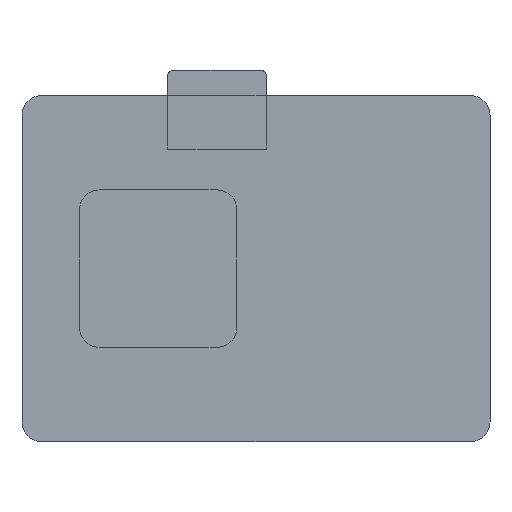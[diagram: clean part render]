
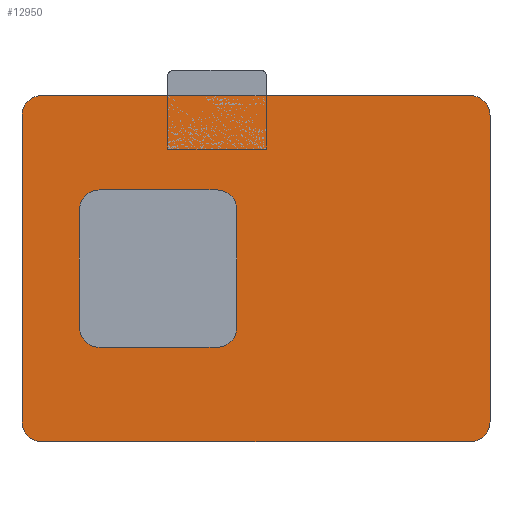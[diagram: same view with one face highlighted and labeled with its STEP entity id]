
A CAD part, front view. The second image highlights one B-rep face of the part: STEP entity #12950.
In plain terms, the highlighted planar face has unit normal (0, -1, 0).
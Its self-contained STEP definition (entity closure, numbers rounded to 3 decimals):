
#86 = AXIS2_PLACEMENT_3D ( 'NONE', #10787, #7929, #4933 ) ;
#253 = ORIENTED_EDGE ( 'NONE', *, *, #1557, .T. ) ;
#278 = VERTEX_POINT ( 'NONE', #7313 ) ;
#380 = DIRECTION ( 'NONE',  ( 0., 1., 0. ) ) ;
#483 = AXIS2_PLACEMENT_3D ( 'NONE', #2218, #7383, #8325 ) ;
#490 = EDGE_CURVE ( 'NONE', #7178, #4411, #11610, .T. ) ;
#713 = ORIENTED_EDGE ( 'NONE', *, *, #4275, .T. ) ;
#793 = CARTESIAN_POINT ( 'NONE',  ( -37.592, 76.5, -55.88 ) ) ;
#922 = CARTESIAN_POINT ( 'NONE',  ( -37.592, 76.5, 55.88 ) ) ;
#957 = VECTOR ( 'NONE', #5073, 1000. ) ;
#1040 = ORIENTED_EDGE ( 'NONE', *, *, #11729, .F. ) ;
#1277 = EDGE_LOOP ( 'NONE', ( #6948, #2278, #8661, #9429, #10849, #253, #12049, #5305 ) ) ;
#1296 = CARTESIAN_POINT ( 'NONE',  ( 25.4, 76.5, -19.05 ) ) ;
#1331 = DIRECTION ( 'NONE',  ( -1., 0., 0. ) ) ;
#1357 = CARTESIAN_POINT ( 'NONE',  ( 19.05, 76.5, 25.4 ) ) ;
#1557 = EDGE_CURVE ( 'NONE', #4182, #10361, #9877, .T. ) ;
#1696 = VERTEX_POINT ( 'NONE', #8345 ) ;
#1709 = EDGE_CURVE ( 'NONE', #7217, #6506, #9025, .T. ) ;
#1803 = ORIENTED_EDGE ( 'NONE', *, *, #4866, .T. ) ;
#2198 = VECTOR ( 'NONE', #2292, 1000. ) ;
#2200 = CARTESIAN_POINT ( 'NONE',  ( -37.592, 76.5, -49.53 ) ) ;
#2210 = VERTEX_POINT ( 'NONE', #11449 ) ;
#2218 = CARTESIAN_POINT ( 'NONE',  ( -37.592, 76.5, 49.53 ) ) ;
#2234 = DIRECTION ( 'NONE',  ( -1., 0., 0. ) ) ;
#2278 = ORIENTED_EDGE ( 'NONE', *, *, #11219, .T. ) ;
#2292 = DIRECTION ( 'NONE',  ( 0., 0., 1. ) ) ;
#2300 = DIRECTION ( 'NONE',  ( -1., 0., 0. ) ) ;
#2334 = VERTEX_POINT ( 'NONE', #5498 ) ;
#2544 = AXIS2_PLACEMENT_3D ( 'NONE', #8149, #5087, #7284 ) ;
#2713 = EDGE_CURVE ( 'NONE', #12280, #4411, #12499, .T. ) ;
#2759 = AXIS2_PLACEMENT_3D ( 'NONE', #11407, #9259, #2234 ) ;
#2865 = CARTESIAN_POINT ( 'NONE',  ( -19.05, 76.5, -25.4 ) ) ;
#2941 = AXIS2_PLACEMENT_3D ( 'NONE', #11741, #6605, #7462 ) ;
#2943 = CIRCLE ( 'NONE', #5312, 6.35 ) ;
#3223 = LINE ( 'NONE', #12271, #10646 ) ;
#3302 = ORIENTED_EDGE ( 'NONE', *, *, #2713, .F. ) ;
#3415 = DIRECTION ( 'NONE',  ( 0., -1., 0. ) ) ;
#3430 = DIRECTION ( 'NONE',  ( 0., 0., 1. ) ) ;
#3689 = VERTEX_POINT ( 'NONE', #11391 ) ;
#3727 = ORIENTED_EDGE ( 'NONE', *, *, #13265, .F. ) ;
#3966 = LINE ( 'NONE', #5982, #12818 ) ;
#4067 = CARTESIAN_POINT ( 'NONE',  ( 19.05, 76.5, -25.4 ) ) ;
#4169 = EDGE_CURVE ( 'NONE', #7376, #6767, #12582, .T. ) ;
#4182 = VERTEX_POINT ( 'NONE', #1296 ) ;
#4275 = EDGE_CURVE ( 'NONE', #7376, #3689, #6736, .T. ) ;
#4411 = VERTEX_POINT ( 'NONE', #6261 ) ;
#4487 = CARTESIAN_POINT ( 'NONE',  ( -19.05, 76.5, 25.4 ) ) ;
#4548 = DIRECTION ( 'NONE',  ( -1., 0., 0. ) ) ;
#4667 = VECTOR ( 'NONE', #10572, 1000. ) ;
#4866 = EDGE_CURVE ( 'NONE', #12280, #6767, #7811, .T. ) ;
#4933 = DIRECTION ( 'NONE',  ( -1., 0., 0. ) ) ;
#5073 = DIRECTION ( 'NONE',  ( -1., 0., 0. ) ) ;
#5087 = DIRECTION ( 'NONE',  ( 0., 1., 0. ) ) ;
#5305 = ORIENTED_EDGE ( 'NONE', *, *, #1709, .T. ) ;
#5312 = AXIS2_PLACEMENT_3D ( 'NONE', #9558, #380, #4548 ) ;
#5352 = DIRECTION ( 'NONE',  ( 0., 1., 0. ) ) ;
#5384 = CARTESIAN_POINT ( 'NONE',  ( 25.4, 76.5, -25.4 ) ) ;
#5498 = CARTESIAN_POINT ( 'NONE',  ( 100.838, 76.5, 55.88 ) ) ;
#5724 = DIRECTION ( 'NONE',  ( 0., 1., 0. ) ) ;
#5982 = CARTESIAN_POINT ( 'NONE',  ( -25.4, 76.5, 25.4 ) ) ;
#5986 = CIRCLE ( 'NONE', #2544, 6.35 ) ;
#6122 = DIRECTION ( 'NONE',  ( 0., 0., -1. ) ) ;
#6187 = LINE ( 'NONE', #11179, #10672 ) ;
#6261 = CARTESIAN_POINT ( 'NONE',  ( -43.942, 76.5, 49.53 ) ) ;
#6427 = EDGE_CURVE ( 'NONE', #1696, #2334, #8715, .T. ) ;
#6506 = VERTEX_POINT ( 'NONE', #6858 ) ;
#6605 = DIRECTION ( 'NONE',  ( 0., -1., 0. ) ) ;
#6736 = CIRCLE ( 'NONE', #86, 6.35 ) ;
#6767 = VERTEX_POINT ( 'NONE', #793 ) ;
#6783 = DIRECTION ( 'NONE',  ( 0., 0., -1. ) ) ;
#6858 = CARTESIAN_POINT ( 'NONE',  ( -25.4, 76.5, -19.05 ) ) ;
#6948 = ORIENTED_EDGE ( 'NONE', *, *, #11619, .F. ) ;
#7178 = VERTEX_POINT ( 'NONE', #922 ) ;
#7217 = VERTEX_POINT ( 'NONE', #2865 ) ;
#7284 = DIRECTION ( 'NONE',  ( -1., 0., 0. ) ) ;
#7287 = VERTEX_POINT ( 'NONE', #1357 ) ;
#7313 = CARTESIAN_POINT ( 'NONE',  ( -25.4, 76.5, 19.05 ) ) ;
#7376 = VERTEX_POINT ( 'NONE', #12834 ) ;
#7383 = DIRECTION ( 'NONE',  ( 0., -1., 0. ) ) ;
#7462 = DIRECTION ( 'NONE',  ( -1., 0., 0. ) ) ;
#7529 = AXIS2_PLACEMENT_3D ( 'NONE', #10601, #5352, #9617 ) ;
#7564 = EDGE_CURVE ( 'NONE', #7217, #10361, #12486, .T. ) ;
#7811 = CIRCLE ( 'NONE', #10355, 6.35 ) ;
#7929 = DIRECTION ( 'NONE',  ( 0., -1., 0. ) ) ;
#7958 = AXIS2_PLACEMENT_3D ( 'NONE', #12838, #5724, #11749 ) ;
#7973 = ORIENTED_EDGE ( 'NONE', *, *, #6427, .T. ) ;
#8006 = CARTESIAN_POINT ( 'NONE',  ( 25.4, 76.5, 25.4 ) ) ;
#8141 = FACE_BOUND ( 'NONE', #1277, .T. ) ;
#8149 = CARTESIAN_POINT ( 'NONE',  ( 19.05, 76.5, 19.05 ) ) ;
#8325 = DIRECTION ( 'NONE',  ( -1., 0., 0. ) ) ;
#8345 = CARTESIAN_POINT ( 'NONE',  ( 107.188, 76.5, 49.53 ) ) ;
#8521 = LINE ( 'NONE', #12635, #10615 ) ;
#8661 = ORIENTED_EDGE ( 'NONE', *, *, #9435, .F. ) ;
#8664 = CARTESIAN_POINT ( 'NONE',  ( 107.188, 76.5, -55.88 ) ) ;
#8715 = CIRCLE ( 'NONE', #2941, 6.35 ) ;
#9025 = CIRCLE ( 'NONE', #7529, 6.35 ) ;
#9115 = ORIENTED_EDGE ( 'NONE', *, *, #4169, .F. ) ;
#9259 = DIRECTION ( 'NONE',  ( 0., -1., 0. ) ) ;
#9429 = ORIENTED_EDGE ( 'NONE', *, *, #12312, .T. ) ;
#9435 = EDGE_CURVE ( 'NONE', #7287, #12202, #13103, .T. ) ;
#9558 = CARTESIAN_POINT ( 'NONE',  ( -19.05, 76.5, 19.05 ) ) ;
#9617 = DIRECTION ( 'NONE',  ( -1., 0., 0. ) ) ;
#9877 = CIRCLE ( 'NONE', #7958, 6.35 ) ;
#10319 = ORIENTED_EDGE ( 'NONE', *, *, #490, .T. ) ;
#10355 = AXIS2_PLACEMENT_3D ( 'NONE', #2200, #3415, #1331 ) ;
#10361 = VERTEX_POINT ( 'NONE', #4067 ) ;
#10572 = DIRECTION ( 'NONE',  ( 1., 0., 0. ) ) ;
#10601 = CARTESIAN_POINT ( 'NONE',  ( -19.05, 76.5, -19.05 ) ) ;
#10615 = VECTOR ( 'NONE', #3430, 1000. ) ;
#10646 = VECTOR ( 'NONE', #11382, 1000. ) ;
#10672 = VECTOR ( 'NONE', #6122, 1000. ) ;
#10782 = EDGE_CURVE ( 'NONE', #4182, #2210, #8521, .T. ) ;
#10787 = CARTESIAN_POINT ( 'NONE',  ( 100.838, 76.5, -49.53 ) ) ;
#10811 = CARTESIAN_POINT ( 'NONE',  ( -43.942, 76.5, -49.53 ) ) ;
#10849 = ORIENTED_EDGE ( 'NONE', *, *, #10782, .F. ) ;
#11134 = PLANE ( 'NONE',  #2759 ) ;
#11179 = CARTESIAN_POINT ( 'NONE',  ( 107.188, 76.5, 55.88 ) ) ;
#11182 = EDGE_LOOP ( 'NONE', ( #3302, #1803, #9115, #713, #3727, #7973, #1040, #10319 ) ) ;
#11219 = EDGE_CURVE ( 'NONE', #278, #12202, #2943, .T. ) ;
#11382 = DIRECTION ( 'NONE',  ( 1., 0., 0. ) ) ;
#11391 = CARTESIAN_POINT ( 'NONE',  ( 107.188, 76.5, -49.53 ) ) ;
#11407 = CARTESIAN_POINT ( 'NONE',  ( -43.942, 76.5, 55.88 ) ) ;
#11449 = CARTESIAN_POINT ( 'NONE',  ( 25.4, 76.5, 19.05 ) ) ;
#11473 = CARTESIAN_POINT ( 'NONE',  ( -43.942, 76.5, 55.88 ) ) ;
#11610 = CIRCLE ( 'NONE', #483, 6.35 ) ;
#11619 = EDGE_CURVE ( 'NONE', #278, #6506, #3966, .T. ) ;
#11729 = EDGE_CURVE ( 'NONE', #7178, #2334, #3223, .T. ) ;
#11741 = CARTESIAN_POINT ( 'NONE',  ( 100.838, 76.5, 49.53 ) ) ;
#11749 = DIRECTION ( 'NONE',  ( -1., 0., 0. ) ) ;
#12049 = ORIENTED_EDGE ( 'NONE', *, *, #7564, .F. ) ;
#12202 = VERTEX_POINT ( 'NONE', #4487 ) ;
#12271 = CARTESIAN_POINT ( 'NONE',  ( 107.188, 76.5, 55.88 ) ) ;
#12280 = VERTEX_POINT ( 'NONE', #10811 ) ;
#12312 = EDGE_CURVE ( 'NONE', #7287, #2210, #5986, .T. ) ;
#12486 = LINE ( 'NONE', #5384, #4667 ) ;
#12499 = LINE ( 'NONE', #11473, #2198 ) ;
#12582 = LINE ( 'NONE', #8664, #12731 ) ;
#12635 = CARTESIAN_POINT ( 'NONE',  ( 25.4, 76.5, 25.4 ) ) ;
#12731 = VECTOR ( 'NONE', #2300, 1000. ) ;
#12818 = VECTOR ( 'NONE', #6783, 1000. ) ;
#12834 = CARTESIAN_POINT ( 'NONE',  ( 100.838, 76.5, -55.88 ) ) ;
#12838 = CARTESIAN_POINT ( 'NONE',  ( 19.05, 76.5, -19.05 ) ) ;
#12950 = ADVANCED_FACE ( 'NONE', ( #12979, #8141 ), #11134, .T. ) ;
#12979 = FACE_OUTER_BOUND ( 'NONE', #11182, .T. ) ;
#13103 = LINE ( 'NONE', #8006, #957 ) ;
#13265 = EDGE_CURVE ( 'NONE', #1696, #3689, #6187, .T. ) ;
